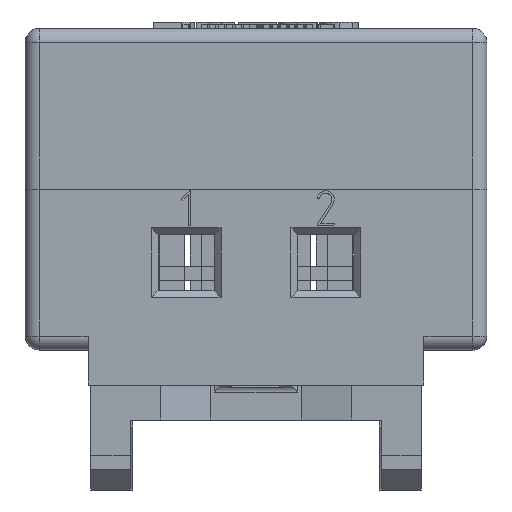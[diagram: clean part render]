
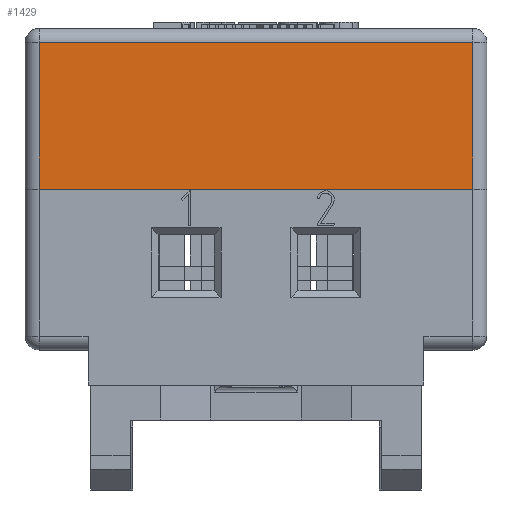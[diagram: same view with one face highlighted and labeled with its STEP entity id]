
A CAD part, front view. The second image highlights one B-rep face of the part: STEP entity #1429.
In plain terms, the highlighted planar face has unit normal (0, -1, 0).
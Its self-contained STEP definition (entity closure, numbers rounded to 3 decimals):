
#1429 = ADVANCED_FACE ( 'NONE', ( #17397 ), #30414, .F. ) ;
#1474 = CARTESIAN_POINT ( 'NONE',  ( 32., -22.5, 25.5 ) ) ;
#1678 = VECTOR ( 'NONE', #31685, 1000. ) ;
#2646 = VECTOR ( 'NONE', #2775, 1000. ) ;
#2754 = CARTESIAN_POINT ( 'NONE',  ( 32., -22.5, 24.5 ) ) ;
#2775 = DIRECTION ( 'NONE',  ( -1., 0., 0. ) ) ;
#3462 = LINE ( 'NONE', #31159, #2646 ) ;
#4066 = DIRECTION ( 'NONE',  ( 0., 0., 1. ) ) ;
#4171 = LINE ( 'NONE', #1474, #23127 ) ;
#5808 = CARTESIAN_POINT ( 'NONE',  ( 1., -22.5, 14. ) ) ;
#6295 = VERTEX_POINT ( 'NONE', #28378 ) ;
#7571 = EDGE_CURVE ( 'NONE', #24898, #12879, #19722, .T. ) ;
#8777 = EDGE_CURVE ( 'NONE', #6295, #12879, #3462, .T. ) ;
#12237 = CARTESIAN_POINT ( 'NONE',  ( 1., -22.5, 24.5 ) ) ;
#12879 = VERTEX_POINT ( 'NONE', #5808 ) ;
#13653 = CARTESIAN_POINT ( 'NONE',  ( 33., -22.5, 24.5 ) ) ;
#14900 = VERTEX_POINT ( 'NONE', #2754 ) ;
#15714 = EDGE_CURVE ( 'NONE', #6295, #14900, #4171, .T. ) ;
#15962 = ORIENTED_EDGE ( 'NONE', *, *, #8777, .F. ) ;
#16599 = CARTESIAN_POINT ( 'NONE',  ( 1., -22.5, 25.5 ) ) ;
#16633 = EDGE_CURVE ( 'NONE', #14900, #24898, #21413, .T. ) ;
#17142 = ORIENTED_EDGE ( 'NONE', *, *, #16633, .T. ) ;
#17397 = FACE_OUTER_BOUND ( 'NONE', #24333, .T. ) ;
#18883 = VECTOR ( 'NONE', #22022, 1000. ) ;
#19722 = LINE ( 'NONE', #16599, #18883 ) ;
#21413 = LINE ( 'NONE', #13653, #1678 ) ;
#22022 = DIRECTION ( 'NONE',  ( 0., 0., -1. ) ) ;
#23127 = VECTOR ( 'NONE', #4066, 1000. ) ;
#23932 = ORIENTED_EDGE ( 'NONE', *, *, #7571, .T. ) ;
#24333 = EDGE_LOOP ( 'NONE', ( #17142, #23932, #15962, #27702 ) ) ;
#24871 = AXIS2_PLACEMENT_3D ( 'NONE', #30304, #30194, #30082 ) ;
#24898 = VERTEX_POINT ( 'NONE', #12237 ) ;
#27702 = ORIENTED_EDGE ( 'NONE', *, *, #15714, .T. ) ;
#28378 = CARTESIAN_POINT ( 'NONE',  ( 32., -22.5, 14. ) ) ;
#30082 = DIRECTION ( 'NONE',  ( 0., 0., 1. ) ) ;
#30194 = DIRECTION ( 'NONE',  ( 0., 1., 0. ) ) ;
#30304 = CARTESIAN_POINT ( 'NONE',  ( 33., -22.5, 25.5 ) ) ;
#30414 = PLANE ( 'NONE',  #24871 ) ;
#31159 = CARTESIAN_POINT ( 'NONE',  ( 33., -22.5, 14. ) ) ;
#31685 = DIRECTION ( 'NONE',  ( -1., 0., 0. ) ) ;
